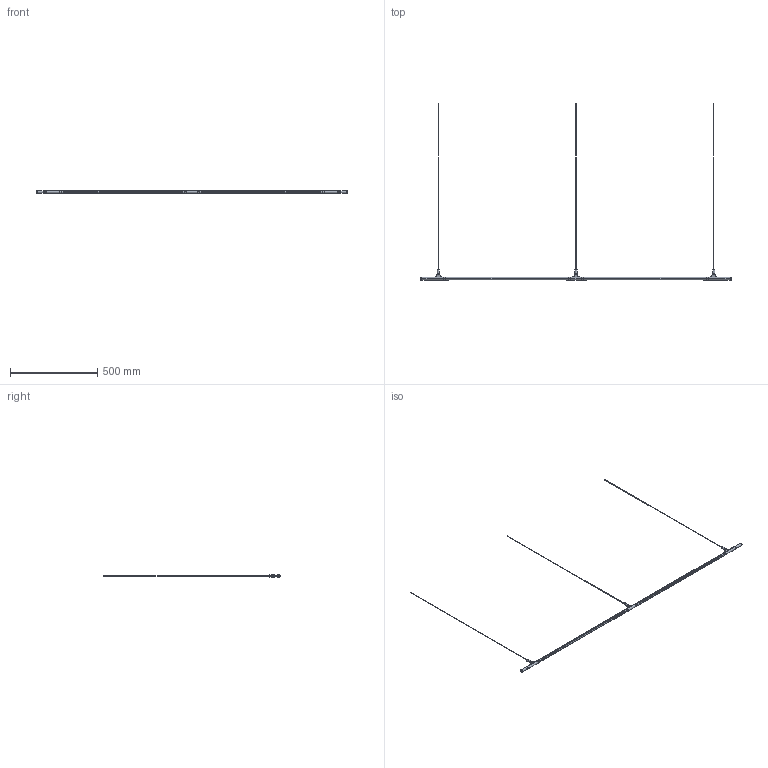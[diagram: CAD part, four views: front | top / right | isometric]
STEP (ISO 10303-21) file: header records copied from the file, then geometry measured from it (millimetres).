
FILE_DESCRIPTION (( 'STEP AP203' ), '1' );
FILE_NAME ('Gallery - Double Pendant.STEP', '2024-03-26T00:34:46', ( '' ), ( '' ), 'SwSTEP 2.0', 'SolidWorks 2017', '' );
FILE_SCHEMA (( 'CONFIG_CONTROL_DESIGN' ));
Length unit declared in the file: millimetre
Products named in the file (1): Gallery - Double Pendant
Bounding box: 1777.6 x 1010 x 16 mm (x, y, z)
Volume: 338707.9 mm3; surface area: 181595 mm2
Topology: 10 solids, 10 shells, 486 faces, 1118 edges, 684 vertices
Faces by surface type: plane 192, cylinder 154, bspline 58, torus 56, cone 16, sphere 10
Entity records: 20073 total; most frequent: CARTESIAN_POINT 9223, DIRECTION 2276, ORIENTED_EDGE 2220, EDGE_CURVE 1110, AXIS2_PLACEMENT_3D 891, VERTEX_POINT 680, EDGE_LOOP 522, VECTOR 494
